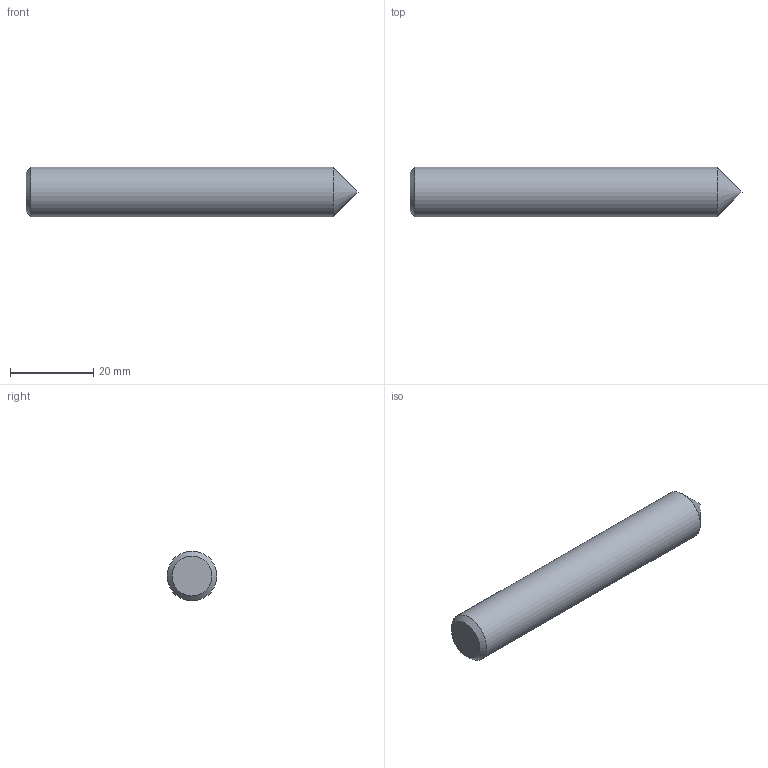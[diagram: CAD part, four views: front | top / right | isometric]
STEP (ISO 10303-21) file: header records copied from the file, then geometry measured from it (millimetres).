
FILE_DESCRIPTION (( 'STEP AP214' ), '1' );
FILE_NAME ('EG99941880.STEP', '2021-06-07T08:18:55', ( '' ), ( '' ), 'SwSTEP 2.0', 'SolidWorks 2014', '' );
FILE_SCHEMA (( 'AUTOMOTIVE_DESIGN' ));
Length unit declared in the file: millimetre
Products named in the file (1): EG99941880
Bounding box: 80 x 12 x 12 mm (x, y, z)
Volume: 8570.1 mm3; surface area: 3260.6 mm2
Topology: 2 solids, 2 shells, 6 faces, 8 edges, 5 vertices
Faces by surface type: plane 3, cone 2, cylinder 1
Full cylindrical faces by diameter (mm): 12 x1
Entity records: 191 total; most frequent: DIRECTION 22, CARTESIAN_POINT 15, AXIS2_PLACEMENT_3D 11, ORIENTED_EDGE 8, EDGE_LOOP 8, UNCERTAINTY_MEASURE_WITH_UNIT 8, PRESENTATION_LAYER_ASSIGNMENT 7, FACE_OUTER_BOUND 7
